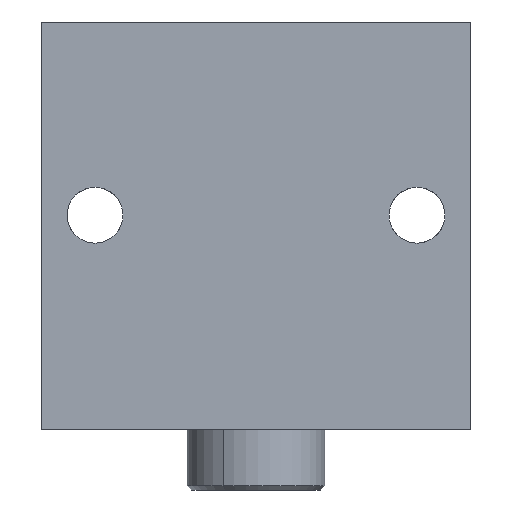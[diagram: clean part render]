
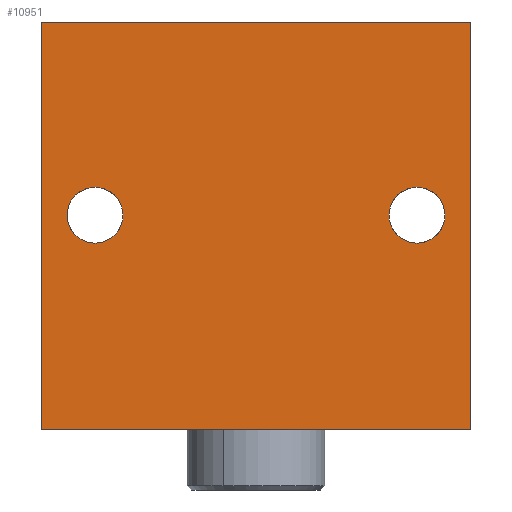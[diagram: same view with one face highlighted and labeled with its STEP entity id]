
A CAD part, front view. The second image highlights one B-rep face of the part: STEP entity #10951.
In plain terms, the highlighted planar face has unit normal (0, -1, 0).
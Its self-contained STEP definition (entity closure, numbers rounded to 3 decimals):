
#269 = CARTESIAN_POINT ( 'NONE',  ( 37.5, 0., 2.5 ) ) ;
#662 = DIRECTION ( 'NONE',  ( 0., 0., 1. ) ) ;
#690 = ORIENTED_EDGE ( 'NONE', *, *, #4544, .F. ) ;
#718 = ORIENTED_EDGE ( 'NONE', *, *, #7226, .F. ) ;
#820 = DIRECTION ( 'NONE',  ( 0., -1., 0. ) ) ;
#941 = CIRCLE ( 'NONE', #3385, 6.5 ) ;
#1269 = DIRECTION ( 'NONE',  ( 0., 0., -1. ) ) ;
#1312 = CARTESIAN_POINT ( 'NONE',  ( -50., 0., -47.5 ) ) ;
#1580 = EDGE_CURVE ( 'NONE', #8823, #4501, #7184, .T. ) ;
#1702 = VECTOR ( 'NONE', #3270, 1000. ) ;
#1888 = DIRECTION ( 'NONE',  ( 1., 0., 0. ) ) ;
#2037 = EDGE_LOOP ( 'NONE', ( #11810, #718 ) ) ;
#2213 = ORIENTED_EDGE ( 'NONE', *, *, #4644, .F. ) ;
#2399 = CARTESIAN_POINT ( 'NONE',  ( 50., 0., -47.5 ) ) ;
#2597 = CARTESIAN_POINT ( 'NONE',  ( 0., 0., 0. ) ) ;
#2764 = ORIENTED_EDGE ( 'NONE', *, *, #10865, .F. ) ;
#2921 = CARTESIAN_POINT ( 'NONE',  ( -37.5, 0., 9. ) ) ;
#3065 = ORIENTED_EDGE ( 'NONE', *, *, #3518, .F. ) ;
#3070 = CARTESIAN_POINT ( 'NONE',  ( 50., 0., 47.5 ) ) ;
#3219 = CIRCLE ( 'NONE', #8558, 6.5 ) ;
#3270 = DIRECTION ( 'NONE',  ( 0., 0., -1. ) ) ;
#3385 = AXIS2_PLACEMENT_3D ( 'NONE', #3961, #10401, #4842 ) ;
#3402 = EDGE_LOOP ( 'NONE', ( #2213, #3065 ) ) ;
#3405 = VERTEX_POINT ( 'NONE', #5198 ) ;
#3423 = VERTEX_POINT ( 'NONE', #4351 ) ;
#3452 = CARTESIAN_POINT ( 'NONE',  ( -50., 0., -47.5 ) ) ;
#3518 = EDGE_CURVE ( 'NONE', #11971, #5432, #8479, .T. ) ;
#3586 = ORIENTED_EDGE ( 'NONE', *, *, #1580, .F. ) ;
#3760 = FACE_OUTER_BOUND ( 'NONE', #8246, .T. ) ;
#3802 = LINE ( 'NONE', #7354, #11421 ) ;
#3855 = AXIS2_PLACEMENT_3D ( 'NONE', #10036, #4497, #10954 ) ;
#3961 = CARTESIAN_POINT ( 'NONE',  ( -37.5, 0., 2.5 ) ) ;
#4214 = LINE ( 'NONE', #2399, #1702 ) ;
#4315 = DIRECTION ( 'NONE',  ( 0., 0., 1. ) ) ;
#4351 = CARTESIAN_POINT ( 'NONE',  ( -50., 0., 47.5 ) ) ;
#4497 = DIRECTION ( 'NONE',  ( 0., -1., 0. ) ) ;
#4501 = VERTEX_POINT ( 'NONE', #10926 ) ;
#4544 = EDGE_CURVE ( 'NONE', #3423, #6161, #3802, .T. ) ;
#4575 = CARTESIAN_POINT ( 'NONE',  ( 50., 0., -47.5 ) ) ;
#4644 = EDGE_CURVE ( 'NONE', #5432, #11971, #941, .T. ) ;
#4842 = DIRECTION ( 'NONE',  ( 0., 0., -1. ) ) ;
#4861 = EDGE_CURVE ( 'NONE', #6161, #8823, #4214, .T. ) ;
#5198 = CARTESIAN_POINT ( 'NONE',  ( 37.5, 0., -4. ) ) ;
#5432 = VERTEX_POINT ( 'NONE', #11051 ) ;
#6026 = AXIS2_PLACEMENT_3D ( 'NONE', #6376, #820, #7278 ) ;
#6161 = VERTEX_POINT ( 'NONE', #3070 ) ;
#6226 = DIRECTION ( 'NONE',  ( 0., 1., 0. ) ) ;
#6339 = AXIS2_PLACEMENT_3D ( 'NONE', #2597, #6226, #662 ) ;
#6376 = CARTESIAN_POINT ( 'NONE',  ( 37.5, 0., 2.5 ) ) ;
#6406 = FACE_BOUND ( 'NONE', #2037, .T. ) ;
#6624 = CARTESIAN_POINT ( 'NONE',  ( 37.5, 0., 9. ) ) ;
#6684 = VECTOR ( 'NONE', #4315, 1000. ) ;
#6771 = DIRECTION ( 'NONE',  ( 0., -1., 0. ) ) ;
#6952 = LINE ( 'NONE', #3452, #6684 ) ;
#7184 = LINE ( 'NONE', #1312, #11930 ) ;
#7226 = EDGE_CURVE ( 'NONE', #8414, #3405, #3219, .T. ) ;
#7278 = DIRECTION ( 'NONE',  ( 0., 0., -1. ) ) ;
#7354 = CARTESIAN_POINT ( 'NONE',  ( -50., 0., 47.5 ) ) ;
#8246 = EDGE_LOOP ( 'NONE', ( #2764, #3586, #9677, #690 ) ) ;
#8414 = VERTEX_POINT ( 'NONE', #6624 ) ;
#8479 = CIRCLE ( 'NONE', #3855, 6.5 ) ;
#8558 = AXIS2_PLACEMENT_3D ( 'NONE', #269, #6771, #1269 ) ;
#8733 = DIRECTION ( 'NONE',  ( -1., 0., 0. ) ) ;
#8765 = EDGE_CURVE ( 'NONE', #3405, #8414, #12027, .T. ) ;
#8823 = VERTEX_POINT ( 'NONE', #4575 ) ;
#9677 = ORIENTED_EDGE ( 'NONE', *, *, #4861, .F. ) ;
#10036 = CARTESIAN_POINT ( 'NONE',  ( -37.5, 0., 2.5 ) ) ;
#10401 = DIRECTION ( 'NONE',  ( 0., -1., 0. ) ) ;
#10801 = FACE_BOUND ( 'NONE', #3402, .T. ) ;
#10865 = EDGE_CURVE ( 'NONE', #4501, #3423, #6952, .T. ) ;
#10926 = CARTESIAN_POINT ( 'NONE',  ( -50., 0., -47.5 ) ) ;
#10951 = ADVANCED_FACE ( 'NONE', ( #6406, #10801, #3760 ), #11839, .F. ) ;
#10954 = DIRECTION ( 'NONE',  ( 0., 0., -1. ) ) ;
#11051 = CARTESIAN_POINT ( 'NONE',  ( -37.5, 0., -4. ) ) ;
#11421 = VECTOR ( 'NONE', #1888, 1000. ) ;
#11810 = ORIENTED_EDGE ( 'NONE', *, *, #8765, .F. ) ;
#11839 = PLANE ( 'NONE',  #6339 ) ;
#11930 = VECTOR ( 'NONE', #8733, 1000. ) ;
#11971 = VERTEX_POINT ( 'NONE', #2921 ) ;
#12027 = CIRCLE ( 'NONE', #6026, 6.5 ) ;
